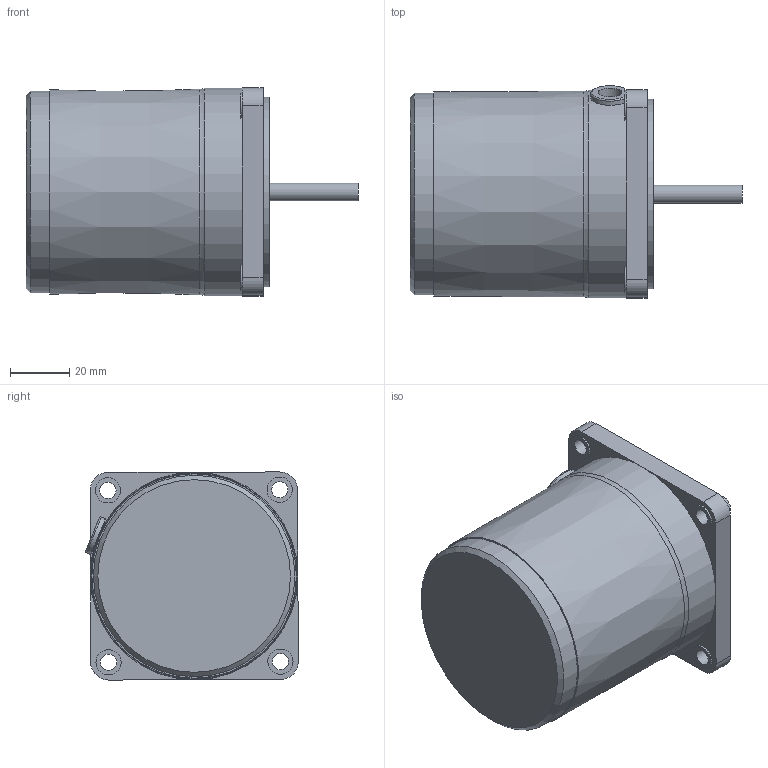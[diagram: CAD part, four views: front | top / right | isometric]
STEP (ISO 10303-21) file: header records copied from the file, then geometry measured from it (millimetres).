
FILE_DESCRIPTION((''),'2;1');
FILE_NAME('D:\김성묵\업무폴더\개발 파일\프로젝트 개발 AB등급\AC표준형 개발자료\90각 이하 표준형 개발\도면작성 자료\3D 도면\홈페이지용 3D 파일\15W MOTOR\S7I15S.stp','2015-03-25T11:13:21',('smkim'),(''),'Autodesk Inventor 2012','Autodesk Inventor 2012','');
FILE_SCHEMA(('AUTOMOTIVE_DESIGN { 1 0 10303 214 1 1 1 1 }'));
Length unit declared in the file: millimetre
Products named in the file (4): S7I15S; S7I15GㅁCE; 6_CORD BUSH; S7_HOUSING S
Assembly tree (3 placements, depth 2):
  S7I15S
    S7I15GㅁCE
    6_CORD BUSH
    S7_HOUSING S
Bounding box: 112 x 71.66 x 70.2 mm (x, y, z)
Volume: 305694.6 mm3; surface area: 38241.2 mm2
Topology: 3 solids, 3 shells, 82 faces, 199 edges, 131 vertices
Faces by surface type: plane 47, cylinder 29, cone 4, torus 2
Full cylindrical faces by diameter (mm): 5.5 x4, 6 x1, 8 x1, 8.5 x4, 10 x1, 28 x1, 64 x1, 68 x1, 70 x1
Entity records: 2479 total; most frequent: CARTESIAN_POINT 455, DIRECTION 424, ORIENTED_EDGE 354, EDGE_CURVE 177, AXIS2_PLACEMENT_3D 166, VERTEX_POINT 128, EDGE_LOOP 123, VECTOR 92
